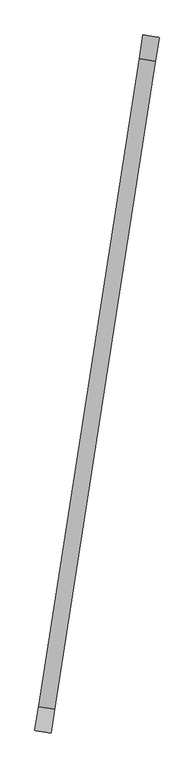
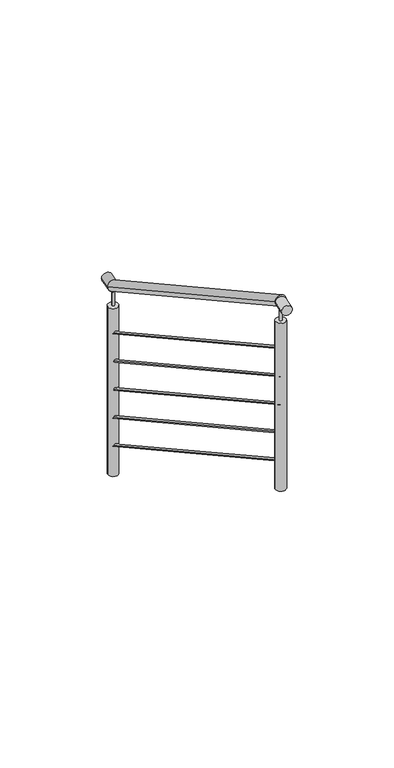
"""IFC4 building model written with IfcOpenShell, lengths in millimetres: railing geometry, Barandal acero inox - escalera."""

from ifc_helpers import new_model, si_unit, point, frame, frame_2d, origin, place, context, project, spatial, circle_curve, ellipse_curve, trimmed, segment, composite_curve, outline, extrude, source, transform, mapped, element, save
from ifc_brep_helpers import plane_surface, cylinder_surface, advanced_brep


def railing_83839ea1(model_context):
    return source(origin(), model_context, "Body", "SolidModel", [
        advanced_brep(
        [(-31857.6701982, -66167.0595331, -1821.875), (-31807.4762774, -66174.8832349, -1821.875), (-32170.3102532, -68172.840228, -575.0), (-32120.1163323, -68180.6639299, -575.0)],
        [
            (0, 1, ellipse_curve(frame((-31832.5732378, -66170.971384, -1821.875), z_axis=(0.1540098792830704, 0.9880693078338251, 0.0), x_axis=(0.0, 0.0, -1.0)), 29.8087294, 25.4)),
            (1, 0, ellipse_curve(frame((-31832.5732378, -66170.971384, -1821.875), z_axis=(0.1540098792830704, 0.9880693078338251, 0.0), x_axis=(0.0, 0.0, -1.0)), 29.8087294, 25.4)),
            (2, 3, ellipse_curve(frame((-32145.2132927, -68176.7520789, -575.0), z_axis=(-0.1540098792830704, -0.9880693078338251, 0.0), x_axis=(0.0, 0.0, -1.0)), 29.8087294, 25.4)),
            (3, 2, ellipse_curve(frame((-32145.2132927, -68176.7520789, -575.0), z_axis=(-0.1540098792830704, -0.9880693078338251, 0.0), x_axis=(0.0, 0.0, -1.0)), 29.8087294, 25.4)),
            (0, 2),
            (3, 1),
        ],
        [
            plane_surface(frame((-31832.5732378, -66170.971384, -1821.875), z_axis=(0.1540098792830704, 0.9880693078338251, 0.0), x_axis=(0.9880693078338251, -0.1540098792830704, 0.0))),
            plane_surface(frame((-32145.2132927, -68176.7520789, -575.0), z_axis=(-0.1540098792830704, -0.9880693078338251, 0.0), x_axis=(0.9880693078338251, -0.1540098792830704, 0.0))),
            cylinder_surface(frame((-31832.5732378, -66170.971384, -1821.875), z_axis=(0.13123172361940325, 0.8419332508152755, -0.523380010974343), x_axis=(0.9880693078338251, -0.1540098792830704, 0.0)), 25.4),
        ],
        [
            (0, [[1, 2]]),
            (1, [[3, 4]]),
            (2, [[-1, 5, -4, 6]]),
            (2, [[-2, -6, -3, -5]]),
        ],
    ),
        advanced_brep(
        [(-31838.8474779, -66169.9934213, -2071.875), (-31826.2989977, -66171.9493467, -2071.875), (-32151.4875328, -68175.7741162, -825.0), (-32138.9390526, -68177.7300417, -825.0)],
        [
            (0, 1, ellipse_curve(frame((-31832.5732378, -66170.971384, -2071.875), z_axis=(0.1540098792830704, 0.9880693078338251, 0.0), x_axis=(0.0, 0.0, -1.0)), 7.4521823, 6.35)),
            (1, 0, ellipse_curve(frame((-31832.5732378, -66170.971384, -2071.875), z_axis=(0.1540098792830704, 0.9880693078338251, 0.0), x_axis=(0.0, 0.0, -1.0)), 7.4521823, 6.35)),
            (2, 3, ellipse_curve(frame((-32145.2132927, -68176.7520789, -825.0), z_axis=(-0.1540098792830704, -0.9880693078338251, 0.0), x_axis=(0.0, 0.0, -1.0)), 7.4521823, 6.35)),
            (3, 2, ellipse_curve(frame((-32145.2132927, -68176.7520789, -825.0), z_axis=(-0.1540098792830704, -0.9880693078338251, 0.0), x_axis=(0.0, 0.0, -1.0)), 7.4521823, 6.35)),
            (0, 2),
            (3, 1),
        ],
        [
            plane_surface(frame((-31832.5732378, -66170.971384, -2071.875), z_axis=(0.1540098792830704, 0.9880693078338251, 0.0), x_axis=(0.9880693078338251, -0.1540098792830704, 0.0))),
            plane_surface(frame((-32145.2132927, -68176.7520789, -825.0), z_axis=(-0.1540098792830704, -0.9880693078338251, 0.0), x_axis=(0.9880693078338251, -0.1540098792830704, 0.0))),
            cylinder_surface(frame((-31832.5732378, -66170.971384, -2071.875), z_axis=(0.13123172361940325, 0.8419332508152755, -0.523380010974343), x_axis=(0.9880693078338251, -0.1540098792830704, 0.0)), 6.35),
        ],
        [
            (0, [[1, 2]]),
            (1, [[3, 4]]),
            (2, [[-1, 5, -4, 6]]),
            (2, [[-2, -6, -3, -5]]),
        ],
    ),
        advanced_brep(
        [(-31838.8474779, -66169.9934213, -2221.875), (-31826.2989977, -66171.9493467, -2221.875), (-32151.4875328, -68175.7741162, -975.0), (-32138.9390526, -68177.7300417, -975.0)],
        [
            (0, 1, ellipse_curve(frame((-31832.5732378, -66170.971384, -2221.875), z_axis=(0.1540098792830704, 0.9880693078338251, 0.0), x_axis=(0.0, 0.0, -1.0)), 7.4521823, 6.35)),
            (1, 0, ellipse_curve(frame((-31832.5732378, -66170.971384, -2221.875), z_axis=(0.1540098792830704, 0.9880693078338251, 0.0), x_axis=(0.0, 0.0, -1.0)), 7.4521823, 6.35)),
            (2, 3, ellipse_curve(frame((-32145.2132927, -68176.7520789, -975.0), z_axis=(-0.1540098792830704, -0.9880693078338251, 0.0), x_axis=(0.0, 0.0, -1.0)), 7.4521823, 6.35)),
            (3, 2, ellipse_curve(frame((-32145.2132927, -68176.7520789, -975.0), z_axis=(-0.1540098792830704, -0.9880693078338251, 0.0), x_axis=(0.0, 0.0, -1.0)), 7.4521823, 6.35)),
            (0, 2),
            (3, 1),
        ],
        [
            plane_surface(frame((-31832.5732378, -66170.971384, -2221.875), z_axis=(0.1540098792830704, 0.9880693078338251, 0.0), x_axis=(0.9880693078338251, -0.1540098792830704, 0.0))),
            plane_surface(frame((-32145.2132927, -68176.7520789, -975.0), z_axis=(-0.1540098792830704, -0.9880693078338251, 0.0), x_axis=(0.9880693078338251, -0.1540098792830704, 0.0))),
            cylinder_surface(frame((-31832.5732378, -66170.971384, -2221.875), z_axis=(0.13123172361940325, 0.8419332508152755, -0.523380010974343), x_axis=(0.9880693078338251, -0.1540098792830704, 0.0)), 6.35),
        ],
        [
            (0, [[1, 2]]),
            (1, [[3, 4]]),
            (2, [[-1, 5, -4, 6]]),
            (2, [[-2, -6, -3, -5]]),
        ],
    ),
        advanced_brep(
        [(-31838.8474779, -66169.9934213, -2371.875), (-31826.2989977, -66171.9493467, -2371.875), (-32151.4875328, -68175.7741162, -1125.0), (-32138.9390526, -68177.7300417, -1125.0)],
        [
            (0, 1, ellipse_curve(frame((-31832.5732378, -66170.971384, -2371.875), z_axis=(0.1540098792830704, 0.9880693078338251, 0.0), x_axis=(0.0, 0.0, -1.0)), 7.4521823, 6.35)),
            (1, 0, ellipse_curve(frame((-31832.5732378, -66170.971384, -2371.875), z_axis=(0.1540098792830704, 0.9880693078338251, 0.0), x_axis=(0.0, 0.0, -1.0)), 7.4521823, 6.35)),
            (2, 3, ellipse_curve(frame((-32145.2132927, -68176.7520789, -1125.0), z_axis=(-0.1540098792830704, -0.9880693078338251, 0.0), x_axis=(0.0, 0.0, -1.0)), 7.4521823, 6.35)),
            (3, 2, ellipse_curve(frame((-32145.2132927, -68176.7520789, -1125.0), z_axis=(-0.1540098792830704, -0.9880693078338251, 0.0), x_axis=(0.0, 0.0, -1.0)), 7.4521823, 6.35)),
            (0, 2),
            (3, 1),
        ],
        [
            plane_surface(frame((-31832.5732378, -66170.971384, -2371.875), z_axis=(0.1540098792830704, 0.9880693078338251, 0.0), x_axis=(0.9880693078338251, -0.1540098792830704, 0.0))),
            plane_surface(frame((-32145.2132927, -68176.7520789, -1125.0), z_axis=(-0.1540098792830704, -0.9880693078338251, 0.0), x_axis=(0.9880693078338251, -0.1540098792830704, 0.0))),
            cylinder_surface(frame((-31832.5732378, -66170.971384, -2371.875), z_axis=(0.13123172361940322, 0.8419332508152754, -0.5233800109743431), x_axis=(0.9880693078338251, -0.1540098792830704, 0.0)), 6.35),
        ],
        [
            (0, [[1, 2]]),
            (1, [[3, 4]]),
            (2, [[-1, 5, -4, 6]]),
            (2, [[-2, -6, -3, -5]]),
        ],
    ),
        advanced_brep(
        [(-31838.8474779, -66169.9934213, -2521.875), (-31826.2989977, -66171.9493467, -2521.875), (-32151.4875328, -68175.7741162, -1275.0), (-32138.9390526, -68177.7300417, -1275.0)],
        [
            (0, 1, ellipse_curve(frame((-31832.5732378, -66170.971384, -2521.875), z_axis=(0.1540098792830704, 0.9880693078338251, 0.0), x_axis=(0.0, 0.0, -1.0)), 7.4521823, 6.35)),
            (1, 0, ellipse_curve(frame((-31832.5732378, -66170.971384, -2521.875), z_axis=(0.1540098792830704, 0.9880693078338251, 0.0), x_axis=(0.0, 0.0, -1.0)), 7.4521823, 6.35)),
            (2, 3, ellipse_curve(frame((-32145.2132927, -68176.7520789, -1275.0), z_axis=(-0.1540098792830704, -0.9880693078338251, 0.0), x_axis=(0.0, 0.0, -1.0)), 7.4521823, 6.35)),
            (3, 2, ellipse_curve(frame((-32145.2132927, -68176.7520789, -1275.0), z_axis=(-0.1540098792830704, -0.9880693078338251, 0.0), x_axis=(0.0, 0.0, -1.0)), 7.4521823, 6.35)),
            (0, 2),
            (3, 1),
        ],
        [
            plane_surface(frame((-31832.5732378, -66170.971384, -2521.875), z_axis=(0.1540098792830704, 0.9880693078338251, 0.0), x_axis=(0.9880693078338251, -0.1540098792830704, 0.0))),
            plane_surface(frame((-32145.2132927, -68176.7520789, -1275.0), z_axis=(-0.1540098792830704, -0.9880693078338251, 0.0), x_axis=(0.9880693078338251, -0.1540098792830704, 0.0))),
            cylinder_surface(frame((-31832.5732378, -66170.971384, -2521.875), z_axis=(0.13123172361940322, 0.8419332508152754, -0.5233800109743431), x_axis=(0.9880693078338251, -0.1540098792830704, 0.0)), 6.35),
        ],
        [
            (0, [[1, 2]]),
            (1, [[3, 4]]),
            (2, [[-1, 5, -4, 6]]),
            (2, [[-2, -6, -3, -5]]),
        ],
    ),
        advanced_brep(
        [(-31838.8474779, -66169.9934213, -2671.875), (-31826.2989977, -66171.9493467, -2671.875), (-32151.4875328, -68175.7741162, -1425.0), (-32138.9390526, -68177.7300417, -1425.0)],
        [
            (0, 1, ellipse_curve(frame((-31832.5732378, -66170.971384, -2671.875), z_axis=(0.1540098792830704, 0.9880693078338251, 0.0), x_axis=(0.0, 0.0, -1.0)), 7.4521823, 6.35)),
            (1, 0, ellipse_curve(frame((-31832.5732378, -66170.971384, -2671.875), z_axis=(0.1540098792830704, 0.9880693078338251, 0.0), x_axis=(0.0, 0.0, -1.0)), 7.4521823, 6.35)),
            (2, 3, ellipse_curve(frame((-32145.2132927, -68176.7520789, -1425.0), z_axis=(-0.1540098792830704, -0.9880693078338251, 0.0), x_axis=(0.0, 0.0, -1.0)), 7.4521823, 6.35)),
            (3, 2, ellipse_curve(frame((-32145.2132927, -68176.7520789, -1425.0), z_axis=(-0.1540098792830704, -0.9880693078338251, 0.0), x_axis=(0.0, 0.0, -1.0)), 7.4521823, 6.35)),
            (0, 2),
            (3, 1),
        ],
        [
            plane_surface(frame((-31832.5732378, -66170.971384, -2671.875), z_axis=(0.1540098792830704, 0.9880693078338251, 0.0), x_axis=(0.9880693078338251, -0.1540098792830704, 0.0))),
            plane_surface(frame((-32145.2132927, -68176.7520789, -1425.0), z_axis=(-0.1540098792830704, -0.9880693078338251, 0.0), x_axis=(0.9880693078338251, -0.1540098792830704, 0.0))),
            cylinder_surface(frame((-31832.5732378, -66170.971384, -2671.875), z_axis=(0.13123172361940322, 0.8419332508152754, -0.5233800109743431), x_axis=(0.9880693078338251, -0.1540098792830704, 0.0)), 6.35),
        ],
        [
            (0, [[1, 2]]),
            (1, [[3, 4]]),
            (2, [[-1, 5, -4, 6]]),
            (2, [[-2, -6, -3, -5]]),
        ],
    ),
        extrude(outline(composite_curve([segment(trimmed(circle_curve(frame_2d((0.0, 25.4)), 25.4), [point((0.0, 50.8))], [point((0.0, 0.0))], False, "CARTESIAN"), True, "CONTINUOUS"), segment(trimmed(circle_curve(frame_2d((0.0, 25.4)), 25.4), [point((0.0, 0.0))], [point((0.0, 50.8))], False, "CARTESIAN"), True, "CONTINUOUS")], self_intersect=False)), frame((-32181.8609941, -68246.9454261, -579.4087294), z_axis=(0.15400987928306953, 0.9880693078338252, 0.0), x_axis=(0.0, 0.0, 1.0)), (0.0, 0.0, 1.0), 75.0),
        extrude(outline(composite_curve([segment(trimmed(circle_curve(frame_2d((-32145.2132927, -68176.7520789)), 6.35), [point((-32138.9390526, -68177.7300417))], [point((-32151.4875328, -68175.7741162))], False, "CARTESIAN"), True, "CONTINUOUS"), segment(trimmed(circle_curve(frame_2d((-32145.2132927, -68176.7520789)), 6.35), [point((-32151.4875328, -68175.7741162))], [point((-32138.9390526, -68177.7300417))], False, "CARTESIAN"), True, "CONTINUOUS")], self_intersect=False)), frame((0.0, 0.0, -679.8087294), z_axis=(0.0, 0.0, 1.0), x_axis=(1.0, 0.0, 0.0)), (0.0, 0.0, 1.0), 75.0),
        extrude(outline(composite_curve([segment(trimmed(circle_curve(frame_2d((-32145.2132927, -68176.7520789)), 25.4), [point((-32120.1163323, -68180.6639299))], [point((-32170.3102532, -68172.840228))], False, "CARTESIAN"), True, "CONTINUOUS"), segment(trimmed(circle_curve(frame_2d((-32145.2132927, -68176.7520789)), 25.4), [point((-32170.3102532, -68172.840228))], [point((-32120.1163323, -68180.6639299))], False, "CARTESIAN"), True, "CONTINUOUS")], self_intersect=False)), frame((0.0, 0.0, -1575.0), z_axis=(0.0, 0.0, 1.0), x_axis=(1.0, 0.0, 0.0)), (0.0, 0.0, 1.0), 895.1912706),
        extrude(outline(composite_curve([segment(trimmed(circle_curve(frame_2d((0.0, 25.4)), 25.4), [point((0.0, 50.8))], [point((0.0, 0.0))], False, "CARTESIAN"), True, "CONTINUOUS"), segment(trimmed(circle_curve(frame_2d((0.0, 25.4)), 25.4), [point((0.0, 0.0))], [point((0.0, 50.8))], False, "CARTESIAN"), True, "CONTINUOUS")], self_intersect=False)), frame((-31857.6701982, -66167.0595331, -1826.2837294), z_axis=(0.15400987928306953, 0.9880693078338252, 0.0), x_axis=(0.0, 0.0, 1.0)), (0.0, 0.0, 1.0), 75.0),
        extrude(outline(composite_curve([segment(trimmed(circle_curve(frame_2d((-31832.5732378, -66170.971384)), 6.35), [point((-31826.2989977, -66171.9493467))], [point((-31838.8474779, -66169.9934213))], False, "CARTESIAN"), True, "CONTINUOUS"), segment(trimmed(circle_curve(frame_2d((-31832.5732378, -66170.971384)), 6.35), [point((-31838.8474779, -66169.9934213))], [point((-31826.2989977, -66171.9493467))], False, "CARTESIAN"), True, "CONTINUOUS")], self_intersect=False)), frame((0.0, 0.0, -1926.6837294), z_axis=(0.0, 0.0, 1.0), x_axis=(1.0, 0.0, 0.0)), (0.0, 0.0, 1.0), 75.0),
        extrude(outline(composite_curve([segment(trimmed(circle_curve(frame_2d((-31832.5732378, -66170.971384)), 25.4), [point((-31807.4762774, -66174.8832349))], [point((-31857.6701982, -66167.0595331))], False, "CARTESIAN"), True, "CONTINUOUS"), segment(trimmed(circle_curve(frame_2d((-31832.5732378, -66170.971384)), 25.4), [point((-31857.6701982, -66167.0595331))], [point((-31807.4762774, -66174.8832349))], False, "CARTESIAN"), True, "CONTINUOUS")], self_intersect=False)), frame((0.0, 0.0, -2821.875), z_axis=(0.0, 0.0, 1.0), x_axis=(1.0, 0.0, 0.0)), (0.0, 0.0, 1.0), 895.1912706),
    ])


if __name__ == "__main__":
    model = new_model("IFC4")
    model_context = context("Model", 3, world=origin())
    ifc_project = project(units=[si_unit("LENGTHUNIT", "METRE", prefix="MILLI")], contexts=[model_context])
    site = spatial("IfcSite", under=ifc_project)
    building = spatial("IfcBuilding", under=site)
    placement = place(None, origin())
    railing_shape = railing_83839ea1(model_context)
    element("IfcRailing", 1, ObjectType="Barandal acero inox - escalera", at=placement, inside=building, context=model_context, shape_type="MappedRepresentation", body=[
        mapped(railing_shape, transform((0.0, 0.0, 0.0), x_axis=(1.0, 0.0, 0.0), y_axis=(0.0, 1.0, 0.0), z_axis=(0.0, 0.0, 1.0))),
    ])
    save(model, "model.ifc")
